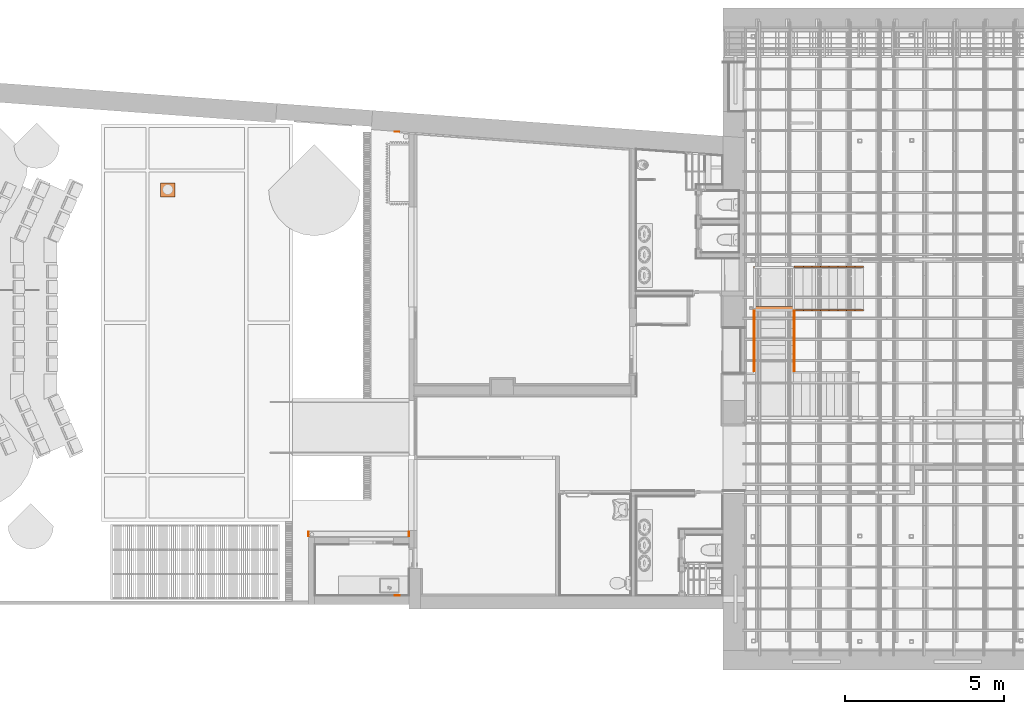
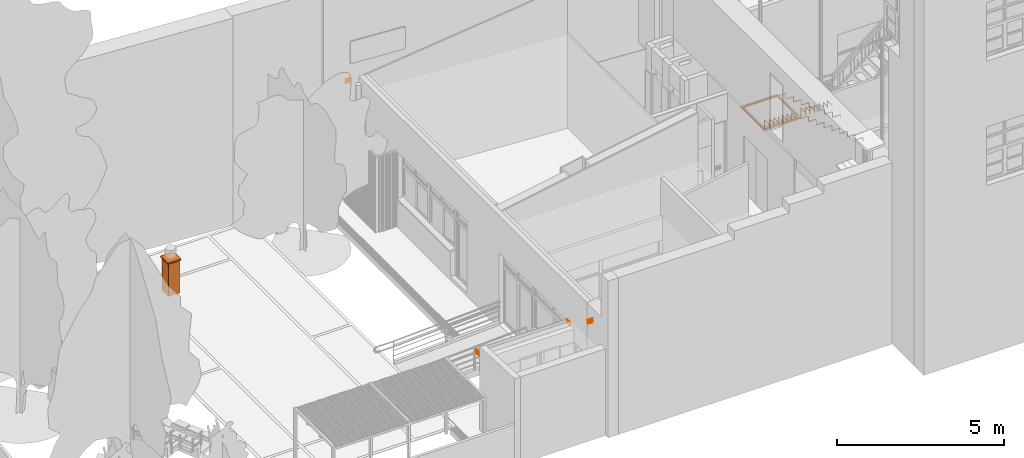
# One storey, part 73 of 75: 6 proxies.
"""IFC2X3 building model written with IfcOpenShell, lengths in metres."""

from ifc_helpers import new_model, entity, si_unit, converted_unit, derived_unit, direction, frame, frame_2d, origin, origin_2d_with_axis, place, context, subcontext, project, spatial, polyline, rectangle, outline, extrude, source, transform, mapped, material, material_list, type_object, type_shapes, element, save


model = new_model("IFC2X3")

# Units and contexts
model_context = context("Model", 3, precision=1e-05, world=origin(), true_north=direction((6.12303176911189e-17, 1.0)))
body_context = subcontext(model_context, "Body", "Model", "MODEL_VIEW")
ifc_project = project(units=[si_unit("LENGTHUNIT", "METRE"), si_unit("AREAUNIT", "SQUARE_METRE"), si_unit("VOLUMEUNIT", "CUBIC_METRE"), converted_unit("PLANEANGLEUNIT", "DEGREE", entity("IfcRatioMeasure", 0.0174532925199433), si_unit("PLANEANGLEUNIT", "RADIAN"), dimensions=[0, 0, 0, 0, 0, 0, 0]), si_unit("MASSUNIT", "GRAM", prefix="KILO"), derived_unit("MASSDENSITYUNIT", [(si_unit("MASSUNIT", "GRAM", prefix="KILO"), 1), (si_unit("LENGTHUNIT", "METRE"), -3)]), derived_unit("MOMENTOFINERTIAUNIT", [(si_unit("LENGTHUNIT", "METRE"), 4)]), si_unit("TIMEUNIT", "SECOND"), si_unit("FREQUENCYUNIT", "HERTZ"), si_unit("THERMODYNAMICTEMPERATUREUNIT", "DEGREE_CELSIUS"), derived_unit("THERMALTRANSMITTANCEUNIT", [(si_unit("MASSUNIT", "GRAM", prefix="KILO"), 1), (si_unit("THERMODYNAMICTEMPERATUREUNIT", "KELVIN"), -1), (si_unit("TIMEUNIT", "SECOND"), -3)]), derived_unit("VOLUMETRICFLOWRATEUNIT", [(si_unit("LENGTHUNIT", "METRE"), 3), (si_unit("TIMEUNIT", "SECOND"), -1)]), si_unit("ELECTRICCURRENTUNIT", "AMPERE"), si_unit("ELECTRICVOLTAGEUNIT", "VOLT"), si_unit("POWERUNIT", "WATT"), si_unit("FORCEUNIT", "NEWTON", prefix="KILO"), si_unit("ILLUMINANCEUNIT", "LUX"), si_unit("LUMINOUSFLUXUNIT", "LUMEN"), si_unit("LUMINOUSINTENSITYUNIT", "CANDELA"), derived_unit("USERDEFINED", [(si_unit("MASSUNIT", "GRAM", prefix="KILO"), -1), (si_unit("LENGTHUNIT", "METRE"), -2), (si_unit("TIMEUNIT", "SECOND"), 3), (si_unit("LUMINOUSFLUXUNIT", "LUMEN"), 1)]), derived_unit("LINEARVELOCITYUNIT", [(si_unit("LENGTHUNIT", "METRE"), 1), (si_unit("TIMEUNIT", "SECOND"), -1)]), si_unit("PRESSUREUNIT", "PASCAL"), derived_unit("USERDEFINED", [(si_unit("LENGTHUNIT", "METRE"), -2), (si_unit("MASSUNIT", "GRAM", prefix="KILO"), 1), (si_unit("TIMEUNIT", "SECOND"), -2)]), derived_unit("LINEARFORCEUNIT", [(si_unit("MASSUNIT", "GRAM", prefix="KILO"), 1), (si_unit("LENGTHUNIT", "METRE"), 1), (si_unit("TIMEUNIT", "SECOND"), -2), (si_unit("LENGTHUNIT", "METRE"), -1)]), derived_unit("PLANARFORCEUNIT", [(si_unit("MASSUNIT", "GRAM", prefix="KILO"), 1), (si_unit("LENGTHUNIT", "METRE"), 1), (si_unit("TIMEUNIT", "SECOND"), -2), (si_unit("LENGTHUNIT", "METRE"), -2)])], contexts=[model_context])

# Site, building, storey
site_placement = place(None, origin())
site = spatial("IfcSite", under=ifc_project, at=site_placement, Name="Superficie", CompositionType="ELEMENT")
building_placement = place(site_placement, origin())
building = spatial("IfcBuilding", under=site, at=building_placement, Name="Telegestiones", CompositionType="ELEMENT")
storey_placement = place(building_placement, origin())
storey = spatial("IfcBuildingStorey", under=building, at=storey_placement, Name="Nivel 0_NPT", CompositionType="ELEMENT", Elevation=0.0)

# Proxies
ifc_material_1 = material(Name="Hormigón, C12/15")
ifc_material_list_1 = material_list([ifc_material_1, ifc_material_1])
ifc_material_list_2 = material_list([ifc_material_1, ifc_material_1])
building_element_proxy_type_1 = type_object("IfcBuildingElementProxyType", Name="Busto de Artigas:Busto de Artigas", PredefinedType="NOTDEFINED", material=ifc_material_list_2)
shared_shape_1 = source(origin(), body_context, "Body", "SweptSolid", [
    extrude(rectangle(XDim=0.45, YDim=0.45, at=frame_2d((-1.08246744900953e-15, 0.0), x_axis=(1.0, 0.0))), frame((-12.8351873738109, 2.40360722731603, 1.05), z_axis=(0.0, 0.0, 1.0), x_axis=(-1.0, 0.0, 0.0)), (0.0, 0.0, 1.0), 0.05),
    extrude(rectangle(XDim=0.39, YDim=0.39, at=frame_2d((-1.08246744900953e-15, 0.0), x_axis=(1.0, 0.0))), frame((-12.8351873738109, 2.40360722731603, -0.15), z_axis=(0.0, 0.0, 1.0), x_axis=(-1.0, 0.0, 0.0)), (0.0, 0.0, 1.0), 1.2),
])
type_shapes(building_element_proxy_type_1, [shared_shape_1])
proxy_1_placement = place(storey_placement, frame((0.781312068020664, 6.23020667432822, 0.0)))
element("IfcBuildingElementProxy", 1, at=proxy_1_placement, inside=storey, type_object=building_element_proxy_type_1, material=ifc_material_list_1, Name="Busto de Artigas:Busto de Artigas", ObjectType="Busto de Artigas:Busto de Artigas", context=body_context, shape_type="MappedRepresentation", body=[
    mapped(shared_shape_1, transform((0.0, 0.0, 0.0), scale=1.0)),
])
ifc_material_2 = material(Name="Metal-Acero")
building_element_proxy_type_2 = type_object("IfcBuildingElementProxyType", Name="Armazón estructural 1:Armazón estructural 1", PredefinedType="NOTDEFINED", material=ifc_material_2)
shared_shape_2 = source(origin(), body_context, "Body", "SweptSolid", [
    extrude(outline(polyline([(-0.700133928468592, -0.642392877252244), (0.700133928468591, -0.642392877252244), (0.700133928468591, 0.642392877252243), (-0.700133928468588, 0.642392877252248), (-0.700133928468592, -0.642392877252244)]), holes=[polyline([(0.640133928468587, -0.582392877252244), (-0.559848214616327, -0.582392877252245), (-0.559848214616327, 0.582392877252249), (0.640133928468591, 0.582392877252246), (0.640133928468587, -0.582392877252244)])]), frame((6.95435550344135, 5.54449115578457, 1.6037874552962), z_axis=(2.42492343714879e-07, 0.0, 1.0), x_axis=(0.0, 1.0, 0.0)), (0.0, 0.0, 1.0), 0.0564876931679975),
])
type_shapes(building_element_proxy_type_2, [shared_shape_2])
proxy_2_placement = place(storey_placement, origin())
element("IfcBuildingElementProxy", 2, at=proxy_2_placement, inside=storey, type_object=building_element_proxy_type_2, material=ifc_material_2, Name="Armazón estructural 1:Armazón estructural 1", ObjectType="Armazón estructural 1:Armazón estructural 1", context=body_context, shape_type="MappedRepresentation", body=[
    mapped(shared_shape_2, transform((0.0, 0.0, 0.0), scale=1.0)),
])
ifc_material_3 = material(Name="Acero")
building_element_proxy_type_3 = type_object("IfcBuildingElementProxyType", Name="Perfiles escalera:Perfiles escalera", PredefinedType="NOTDEFINED", material=ifc_material_3)
shared_shape_3 = source(origin(), body_context, "Body", "SweptSolid", [
    extrude(outline(polyline([(-0.884045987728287, -0.917838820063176), (-0.525925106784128, -0.917838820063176), (-0.525925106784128, -0.633553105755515), (-0.320325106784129, -0.633553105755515), (-0.320325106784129, -0.366410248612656), (-0.114725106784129, -0.366410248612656), (-0.114725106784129, -0.0992673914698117), (0.0908748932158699, -0.0992673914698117), (0.0908748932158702, 0.167875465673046), (0.296474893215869, 0.167875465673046), (0.296474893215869, 0.435018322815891), (0.502074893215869, 0.435018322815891), (0.502074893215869, 0.685018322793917), (0.707674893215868, 0.685018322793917), (0.707674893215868, 0.97501832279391), (0.697674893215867, 0.97501832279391), (0.697674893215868, 0.695018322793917), (0.449050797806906, 0.695018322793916), (0.440997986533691, 0.685018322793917), (0.492074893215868, 0.685018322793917), (0.492074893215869, 0.445018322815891), (0.242323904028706, 0.44501832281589), (0.234271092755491, 0.43501832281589), (0.286474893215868, 0.435018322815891), (0.286474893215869, 0.177875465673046), (0.0214214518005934, 0.177875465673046), (0.0114214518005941, 0.167875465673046), (0.0808748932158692, 0.167875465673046), (0.08087489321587, -0.0892673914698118), (-0.199481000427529, -0.0892673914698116), (-0.207952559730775, -0.099267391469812), (-0.12472510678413, -0.0992673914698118), (-0.124725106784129, -0.356410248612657), (-0.420383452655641, -0.356410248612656), (-0.428855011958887, -0.366410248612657), (-0.330325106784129, -0.366410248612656), (-0.330325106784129, -0.623553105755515), (-0.641285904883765, -0.623553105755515), (-0.64975746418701, -0.633553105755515), (-0.535925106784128, -0.633553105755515), (-0.535925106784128, -0.905732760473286), (-0.874297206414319, -0.905732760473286), (-0.884045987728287, -0.917838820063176)])), frame((7.5695983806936, 3.92676840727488, 2.53192510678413), z_axis=(1.0, 0.0, 0.0), x_axis=(0.0, 0.0, 1.0)), (0.0, 0.0, 1.0), 0.0299999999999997),
])
type_shapes(building_element_proxy_type_3, [shared_shape_3])
proxy_3_placement = place(storey_placement, origin())
element("IfcBuildingElementProxy", 3, at=proxy_3_placement, inside=storey, type_object=building_element_proxy_type_3, material=ifc_material_3, Name="Perfiles escalera:Perfiles escalera", ObjectType="Perfiles escalera:Perfiles escalera", context=body_context, shape_type="MappedRepresentation", body=[
    mapped(shared_shape_3, transform((0.0, 0.0, 0.0), scale=1.0)),
])
ifc_material_4 = material(Name="391846a9_3117_44ae_832e_53e94a79c5b7")
ifc_material_list_3 = material_list([ifc_material_4, ifc_material_4])
ifc_material_list_4 = material_list([ifc_material_4, ifc_material_4])
building_element_proxy_type_4 = type_object("IfcBuildingElementProxyType", Name="Armazón estructural 5:Armazón estructural 3", PredefinedType="NOTDEFINED", material=ifc_material_list_4)
shared_shape_4 = source(origin(), body_context, "Body", "SweptSolid", [
    extrude(outline(polyline([(-1.14089843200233, -0.775482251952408), (-0.869131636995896, -0.775482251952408), (-0.869131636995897, -0.569882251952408), (-0.599131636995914, -0.569882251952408), (-0.599131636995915, -0.364282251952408), (-0.329131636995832, -0.364282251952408), (-0.329131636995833, -0.158682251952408), (-0.0591316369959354, -0.158682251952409), (-0.0591316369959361, 0.0469177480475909), (0.210868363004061, 0.0469177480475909), (0.21086836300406, 0.252517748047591), (0.480868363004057, 0.25251774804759), (0.480868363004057, 0.45811774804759), (0.750868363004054, 0.458117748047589), (0.750868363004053, 0.66371774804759), (1.02086836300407, 0.663717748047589), (1.02086836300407, 0.814116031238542), (1.01086836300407, 0.814116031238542), (1.01086836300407, 0.673717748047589), (0.740868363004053, 0.673717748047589), (0.740868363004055, 0.468117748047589), (0.470868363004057, 0.46811774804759), (0.470868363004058, 0.26251774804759), (0.20086836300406, 0.26251774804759), (0.200868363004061, 0.0569177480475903), (-0.069131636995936, 0.0569177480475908), (-0.0691316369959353, -0.148682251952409), (-0.339131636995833, -0.148682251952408), (-0.339131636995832, -0.354282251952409), (-0.609131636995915, -0.354282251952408), (-0.609131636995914, -0.559882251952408), (-0.879131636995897, -0.559882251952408), (-0.879131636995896, -0.765482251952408), (-1.12688918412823, -0.765482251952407), (-1.14089843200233, -0.775482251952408)])), frame((8.73742141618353, 4.84460722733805, 0.819317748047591), z_axis=(0.0, 1.0, 0.0), x_axis=(1.0, 0.0, 0.0)), (0.0, 0.0, 1.0), 0.0300000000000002),
    extrude(outline(polyline([(-1.14089843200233, -0.775482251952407), (-0.869131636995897, -0.775482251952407), (-0.869131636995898, -0.569882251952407), (-0.599131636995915, -0.569882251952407), (-0.599131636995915, -0.364282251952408), (-0.329131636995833, -0.364282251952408), (-0.329131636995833, -0.158682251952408), (-0.0591316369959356, -0.158682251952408), (-0.0591316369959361, 0.0469177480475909), (0.210868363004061, 0.0469177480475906), (0.210868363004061, 0.25251774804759), (0.480868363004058, 0.252517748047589), (0.480868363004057, 0.458117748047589), (0.750868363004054, 0.458117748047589), (0.750868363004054, 0.663717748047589), (1.02086836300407, 0.663717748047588), (1.02086836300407, 0.814116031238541), (1.01086836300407, 0.814116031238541), (1.01086836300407, 0.673717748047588), (0.740868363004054, 0.673717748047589), (0.740868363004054, 0.468117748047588), (0.470868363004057, 0.468117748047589), (0.470868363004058, 0.262517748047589), (0.200868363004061, 0.26251774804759), (0.200868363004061, 0.0569177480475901), (-0.0691316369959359, 0.0569177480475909), (-0.0691316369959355, -0.148682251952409), (-0.339131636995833, -0.148682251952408), (-0.339131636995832, -0.354282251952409), (-0.609131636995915, -0.354282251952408), (-0.609131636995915, -0.559882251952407), (-0.879131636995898, -0.559882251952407), (-0.879131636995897, -0.765482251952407), (-1.12688918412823, -0.765482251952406), (-1.14089843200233, -0.775482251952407)])), frame((8.73742141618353, 6.21462508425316, 0.819317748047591), z_axis=(0.0, 1.0, 0.0), x_axis=(1.0, 0.0, 0.0)), (0.0, 0.0, 1.0), 0.0299999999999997),
])
type_shapes(building_element_proxy_type_4, [shared_shape_4])
proxy_4_placement = place(storey_placement, origin())
element("IfcBuildingElementProxy", 4, at=proxy_4_placement, inside=storey, type_object=building_element_proxy_type_4, material=ifc_material_list_3, Name="Armazón estructural 5:Armazón estructural 3", ObjectType="Armazón estructural 5:Armazón estructural 3", context=body_context, shape_type="MappedRepresentation", body=[
    mapped(shared_shape_4, transform((0.0, 0.0, 0.0), scale=1.0)),
])
ifc_material_list_5 = material_list([ifc_material_3, ifc_material_3, ifc_material_3, ifc_material_3])
ifc_material_list_6 = material_list([ifc_material_3, ifc_material_3, ifc_material_3, ifc_material_3])
building_element_proxy_type_5 = type_object("IfcBuildingElementProxyType", Name="Tapas Canalon:Tapas Canalon", PredefinedType="NOTDEFINED", material=ifc_material_list_6)
shared_shape_5 = source(origin(), body_context, "Body", "SweptSolid", [
    extrude(rectangle(XDim=0.150950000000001, YDim=0.00999999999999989, at=frame_2d((2.70616862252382e-16, -1.08290112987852e-15), x_axis=(1.0, 0.0))), frame((-4.86383737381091, 10.4604751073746, 3.88510350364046), z_axis=(0.0, 0.0, 1.0), x_axis=(-1.0, 0.0, 0.0)), (0.0, 0.0, 1.0), 0.141424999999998),
    extrude(rectangle(XDim=0.154125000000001, YDim=0.00999999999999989, at=origin_2d_with_axis()), frame((-4.86224987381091, -4.08139277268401, 3.88510350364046), z_axis=(0.0, 0.0, 1.0), x_axis=(-1.0, 0.0, 0.0)), (0.0, 0.0, 1.0), 0.141424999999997),
    extrude(rectangle(XDim=0.00999999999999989, YDim=0.150950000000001, at=frame_2d((0.0, -1.38777878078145e-16), x_axis=(1.0, 0.0))), frame((-4.49018737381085, -2.147742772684, 2.53336238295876)), (0.0, 0.0, 1.0), 0.141424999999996),
    extrude(rectangle(XDim=0.00999999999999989, YDim=0.150950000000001, at=frame_2d((0.0, -1.38777878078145e-16), x_axis=(1.0, 0.0))), frame((-7.64018737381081, -2.147742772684, 2.53336238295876), z_axis=(0.0, 0.0, 1.0), x_axis=(-1.0, 0.0, 0.0)), (0.0, 0.0, 1.0), 0.141424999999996),
])
type_shapes(building_element_proxy_type_5, [shared_shape_5])
proxy_5_placement = place(storey_placement, origin())
element("IfcBuildingElementProxy", 5, at=proxy_5_placement, inside=storey, type_object=building_element_proxy_type_5, material=ifc_material_list_5, Name="Tapas Canalon:Tapas Canalon", ObjectType="Tapas Canalon:Tapas Canalon", context=body_context, shape_type="MappedRepresentation", body=[
    mapped(shared_shape_5, transform((0.0, 0.0, 0.0), scale=1.0)),
])
building_element_proxy_type_6 = type_object("IfcBuildingElementProxyType", Name="Perfiles escalera2:Perfiles escalera", PredefinedType="NOTDEFINED", material=ifc_material_3)
shared_shape_6 = source(origin(), body_context, "Body", "SweptSolid", [
    extrude(outline(polyline([(-0.884360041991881, -0.917740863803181), (-0.525868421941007, -0.917740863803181), (-0.525868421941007, -0.633455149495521), (-0.320268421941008, -0.633455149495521), (-0.320268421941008, -0.366312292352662), (-0.114668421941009, -0.366312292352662), (-0.114668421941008, -0.0991694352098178), (0.0909315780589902, -0.0991694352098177), (0.0909315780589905, 0.16797342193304), (0.296531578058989, 0.16797342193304), (0.29653157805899, 0.435116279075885), (0.502131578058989, 0.435116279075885), (0.502131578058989, 0.68511627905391), (0.707731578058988, 0.685116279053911), (0.707731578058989, 0.975116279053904), (0.697731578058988, 0.975116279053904), (0.697731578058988, 0.695116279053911), (0.449107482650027, 0.69511627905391), (0.441054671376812, 0.68511627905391), (0.492131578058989, 0.68511627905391), (0.492131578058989, 0.445116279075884), (0.242380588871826, 0.445116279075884), (0.234327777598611, 0.435116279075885), (0.286531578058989, 0.435116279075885), (0.286531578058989, 0.17797342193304), (0.0214781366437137, 0.17797342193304), (0.0114781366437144, 0.16797342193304), (0.0809315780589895, 0.16797342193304), (0.0809315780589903, -0.0891694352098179), (-0.199424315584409, -0.0891694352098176), (-0.207895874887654, -0.0991694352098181), (-0.124668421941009, -0.0991694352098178), (-0.124668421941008, -0.356312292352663), (-0.42032676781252, -0.356312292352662), (-0.428798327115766, -0.366312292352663), (-0.330268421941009, -0.366312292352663), (-0.330268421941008, -0.623455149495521), (-0.641229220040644, -0.623455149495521), (-0.649700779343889, -0.633455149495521), (-0.535868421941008, -0.633455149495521), (-0.535868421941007, -0.907740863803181), (-0.876307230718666, -0.907740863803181), (-0.884360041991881, -0.917740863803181)])), frame((6.31828977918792, 3.92686636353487, 2.53186842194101), z_axis=(1.0, 0.0, 0.0), x_axis=(0.0, 0.0, 1.0)), (0.0, 0.0, 1.0), 0.0299999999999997),
])
type_shapes(building_element_proxy_type_6, [shared_shape_6])
proxy_6_placement = place(storey_placement, origin())
element("IfcBuildingElementProxy", 6, at=proxy_6_placement, inside=storey, type_object=building_element_proxy_type_6, material=ifc_material_3, Name="Perfiles escalera2:Perfiles escalera", ObjectType="Perfiles escalera2:Perfiles escalera", context=body_context, shape_type="MappedRepresentation", body=[
    mapped(shared_shape_6, transform((0.0, 0.0, 0.0), scale=1.0)),
])

save(model, "model.ifc")
